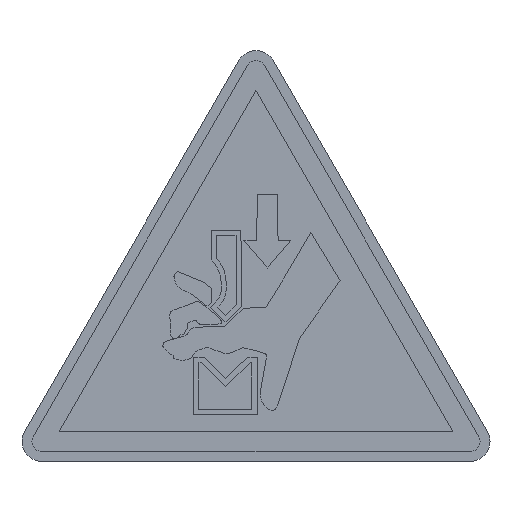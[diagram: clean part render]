
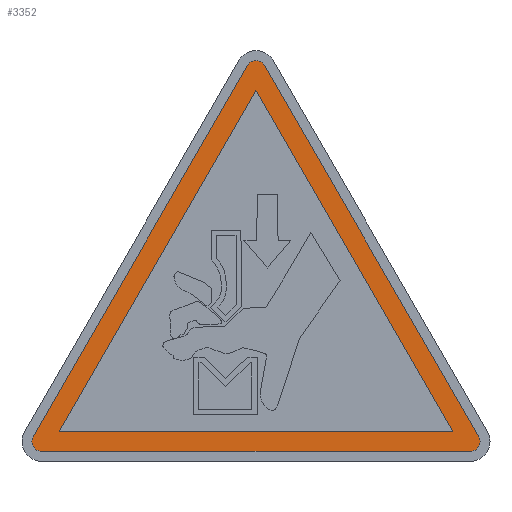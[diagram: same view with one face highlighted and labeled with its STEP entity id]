
A CAD part, top view. The second image highlights one B-rep face of the part: STEP entity #3352.
In plain terms, the highlighted planar face has unit normal (0, 0, 1).
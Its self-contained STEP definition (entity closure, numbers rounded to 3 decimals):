
#15 = ORIENTED_EDGE ( 'NONE', *, *, #2645, .F. ) ;
#47 = ORIENTED_EDGE ( 'NONE', *, *, #2431, .T. ) ;
#96 = AXIS2_PLACEMENT_3D ( 'NONE', #2714, #2368, #3422 ) ;
#117 = ORIENTED_EDGE ( 'NONE', *, *, #803, .F. ) ;
#187 = AXIS2_PLACEMENT_3D ( 'NONE', #1165, #1105, #2495 ) ;
#223 = CARTESIAN_POINT ( 'NONE',  ( -0.866, 39.801, 0.22 ) ) ;
#267 = CARTESIAN_POINT ( 'NONE',  ( -22.536, 2., 0.22 ) ) ;
#389 = CARTESIAN_POINT ( 'NONE',  ( -21.536, 1., 0.22 ) ) ;
#402 = CARTESIAN_POINT ( 'NONE',  ( -19.804, 3., 0.22 ) ) ;
#489 = CARTESIAN_POINT ( 'NONE',  ( -19.804, 3., 0.22 ) ) ;
#492 = DIRECTION ( 'NONE',  ( 1., 0., 0. ) ) ;
#560 = LINE ( 'NONE', #389, #3751 ) ;
#571 = CARTESIAN_POINT ( 'NONE',  ( 19.804, 3., 0.22 ) ) ;
#603 = EDGE_CURVE ( 'NONE', #2652, #3433, #913, .T. ) ;
#612 = DIRECTION ( 'NONE',  ( -0.5, -0.866, 0. ) ) ;
#615 = AXIS2_PLACEMENT_3D ( 'NONE', #805, #3119, #492 ) ;
#749 = ORIENTED_EDGE ( 'NONE', *, *, #3527, .T. ) ;
#776 = EDGE_LOOP ( 'NONE', ( #15, #117, #2691 ) ) ;
#780 = DIRECTION ( 'NONE',  ( 1., 0., 0. ) ) ;
#796 = CARTESIAN_POINT ( 'NONE',  ( 0., 37.301, 0.22 ) ) ;
#803 = EDGE_CURVE ( 'NONE', #3433, #3028, #3358, .T. ) ;
#805 = CARTESIAN_POINT ( 'NONE',  ( -21.536, 2., 0.22 ) ) ;
#810 = EDGE_LOOP ( 'NONE', ( #1939, #1137, #47, #2775, #749, #3047, #4252 ) ) ;
#852 = DIRECTION ( 'NONE',  ( -0.5, 0.866, 0. ) ) ;
#862 = LINE ( 'NONE', #489, #1350 ) ;
#913 = LINE ( 'NONE', #571, #2216 ) ;
#928 = VERTEX_POINT ( 'NONE', #2779 ) ;
#966 = CARTESIAN_POINT ( 'NONE',  ( 0., 37.301, 0.22 ) ) ;
#991 = CARTESIAN_POINT ( 'NONE',  ( -21.536, 1., 0.22 ) ) ;
#1035 = EDGE_CURVE ( 'NONE', #1897, #3874, #1595, .T. ) ;
#1105 = DIRECTION ( 'NONE',  ( 0., 0., 1. ) ) ;
#1137 = ORIENTED_EDGE ( 'NONE', *, *, #2297, .T. ) ;
#1165 = CARTESIAN_POINT ( 'NONE',  ( 21.536, 2., 0.22 ) ) ;
#1196 = VERTEX_POINT ( 'NONE', #1689 ) ;
#1350 = VECTOR ( 'NONE', #2439, 1000. ) ;
#1360 = FACE_OUTER_BOUND ( 'NONE', #810, .T. ) ;
#1372 = LINE ( 'NONE', #1991, #2261 ) ;
#1427 = EDGE_CURVE ( 'NONE', #1683, #1897, #4084, .T. ) ;
#1595 = CIRCLE ( 'NONE', #2147, 1. ) ;
#1683 = VERTEX_POINT ( 'NONE', #4079 ) ;
#1689 = CARTESIAN_POINT ( 'NONE',  ( 21.536, 1., 0.22 ) ) ;
#1727 = EDGE_CURVE ( 'NONE', #4006, #2770, #2015, .T. ) ;
#1897 = VERTEX_POINT ( 'NONE', #3339 ) ;
#1939 = ORIENTED_EDGE ( 'NONE', *, *, #1035, .T. ) ;
#1991 = CARTESIAN_POINT ( 'NONE',  ( -0.866, 39.801, 0.22 ) ) ;
#2015 = CIRCLE ( 'NONE', #615, 1. ) ;
#2075 = DIRECTION ( 'NONE',  ( -0.5, -0.866, 0. ) ) ;
#2117 = AXIS2_PLACEMENT_3D ( 'NONE', #3902, #4009, #780 ) ;
#2147 = AXIS2_PLACEMENT_3D ( 'NONE', #2238, #2867, #2158 ) ;
#2158 = DIRECTION ( 'NONE',  ( 1., 0., 0. ) ) ;
#2216 = VECTOR ( 'NONE', #3487, 1000. ) ;
#2238 = CARTESIAN_POINT ( 'NONE',  ( 0., 39.301, 0.22 ) ) ;
#2261 = VECTOR ( 'NONE', #612, 1000. ) ;
#2297 = EDGE_CURVE ( 'NONE', #3874, #928, #1372, .T. ) ;
#2368 = DIRECTION ( 'NONE',  ( 0., 0., 1. ) ) ;
#2431 = EDGE_CURVE ( 'NONE', #928, #4006, #3080, .T. ) ;
#2439 = DIRECTION ( 'NONE',  ( 1., 0., 0. ) ) ;
#2495 = DIRECTION ( 'NONE',  ( 1., 0., 0. ) ) ;
#2645 = EDGE_CURVE ( 'NONE', #3028, #2652, #862, .T. ) ;
#2652 = VERTEX_POINT ( 'NONE', #3800 ) ;
#2691 = ORIENTED_EDGE ( 'NONE', *, *, #603, .F. ) ;
#2698 = PLANE ( 'NONE',  #2117 ) ;
#2709 = DIRECTION ( 'NONE',  ( 1., 0., 0. ) ) ;
#2714 = CARTESIAN_POINT ( 'NONE',  ( -21.536, 2., 0.22 ) ) ;
#2770 = VERTEX_POINT ( 'NONE', #991 ) ;
#2775 = ORIENTED_EDGE ( 'NONE', *, *, #1727, .T. ) ;
#2779 = CARTESIAN_POINT ( 'NONE',  ( -22.402, 2.5, 0.22 ) ) ;
#2867 = DIRECTION ( 'NONE',  ( 0., 0., 1. ) ) ;
#3022 = CIRCLE ( 'NONE', #187, 1. ) ;
#3028 = VERTEX_POINT ( 'NONE', #402 ) ;
#3047 = ORIENTED_EDGE ( 'NONE', *, *, #3832, .T. ) ;
#3080 = CIRCLE ( 'NONE', #96, 1. ) ;
#3119 = DIRECTION ( 'NONE',  ( 0., 0., 1. ) ) ;
#3328 = VECTOR ( 'NONE', #2075, 1000. ) ;
#3339 = CARTESIAN_POINT ( 'NONE',  ( 0.866, 39.801, 0.22 ) ) ;
#3352 = ADVANCED_FACE ( 'NONE', ( #1360, #3972 ), #2698, .T. ) ;
#3358 = LINE ( 'NONE', #796, #3328 ) ;
#3422 = DIRECTION ( 'NONE',  ( 1., 0., 0. ) ) ;
#3433 = VERTEX_POINT ( 'NONE', #966 ) ;
#3487 = DIRECTION ( 'NONE',  ( -0.5, 0.866, 0. ) ) ;
#3527 = EDGE_CURVE ( 'NONE', #2770, #1196, #560, .T. ) ;
#3751 = VECTOR ( 'NONE', #2709, 1000. ) ;
#3800 = CARTESIAN_POINT ( 'NONE',  ( 19.804, 3., 0.22 ) ) ;
#3832 = EDGE_CURVE ( 'NONE', #1196, #1683, #3022, .T. ) ;
#3874 = VERTEX_POINT ( 'NONE', #223 ) ;
#3902 = CARTESIAN_POINT ( 'NONE',  ( 0., 39.301, 0.22 ) ) ;
#3958 = VECTOR ( 'NONE', #852, 1000. ) ;
#3972 = FACE_BOUND ( 'NONE', #776, .T. ) ;
#4006 = VERTEX_POINT ( 'NONE', #267 ) ;
#4009 = DIRECTION ( 'NONE',  ( 0., 0., 1. ) ) ;
#4046 = CARTESIAN_POINT ( 'NONE',  ( 22.402, 2.5, 0.22 ) ) ;
#4079 = CARTESIAN_POINT ( 'NONE',  ( 22.402, 2.5, 0.22 ) ) ;
#4084 = LINE ( 'NONE', #4046, #3958 ) ;
#4252 = ORIENTED_EDGE ( 'NONE', *, *, #1427, .T. ) ;
